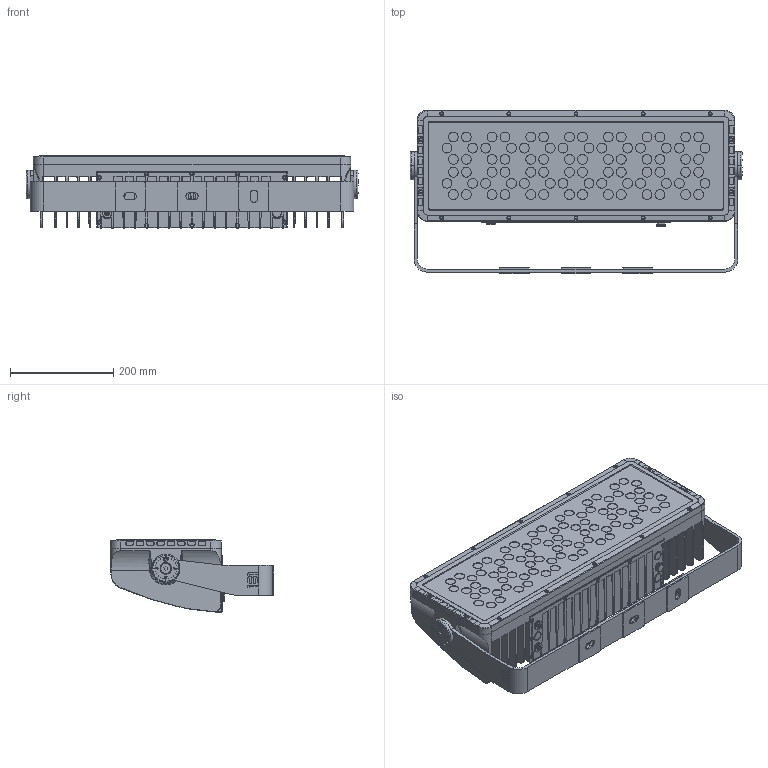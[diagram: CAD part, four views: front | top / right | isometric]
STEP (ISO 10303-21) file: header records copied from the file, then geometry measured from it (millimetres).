
FILE_DESCRIPTION (( 'STEP AP214' ), '1' );
FILE_NAME ('Beam F250.STEP', '2025-10-15T08:52:24', ( '' ), ( '' ), 'SwSTEP 2.0', 'SolidWorks 2025', '' );
FILE_SCHEMA (( 'AUTOMOTIVE_DESIGN' ));
Length unit declared in the file: millimetre
Products named in the file (4): Beam F250 - Reimported body_LED pattern circular; Beam F120 & F250 - Bracket protector; Beam F250 - Bracket; Beam F250
Assembly tree (8 placements, depth 2):
  Beam F250
    Beam F250 - Bracket
    Beam F250 - Reimported body_LED pattern circular
    Beam F120 & F250 - Bracket protector  x6
Bounding box: 643 x 316.5 x 139.5 mm (x, y, z)
Volume: 8992903.7 mm3; surface area: 1338108.4 mm2
Topology: 11 solids, 11 shells, 3915 faces, 9673 edges, 6010 vertices
Faces by surface type: plane 1762, cylinder 1286, torus 354, bspline 258, cone 153, sphere 102
Full cylindrical faces by diameter (mm): 7 x12, 12.107 x1, 14 x1, 19 x84
Entity records: 164168 total; most frequent: CARTESIAN_POINT 93055, ORIENTED_EDGE 18636, EDGE_CURVE 9318, B_SPLINE_CURVE_WITH_KNOTS 8570, DIRECTION 7954, VERTEX_POINT 5863, EDGE_LOOP 4227, FACE_OUTER_BOUND 3952
